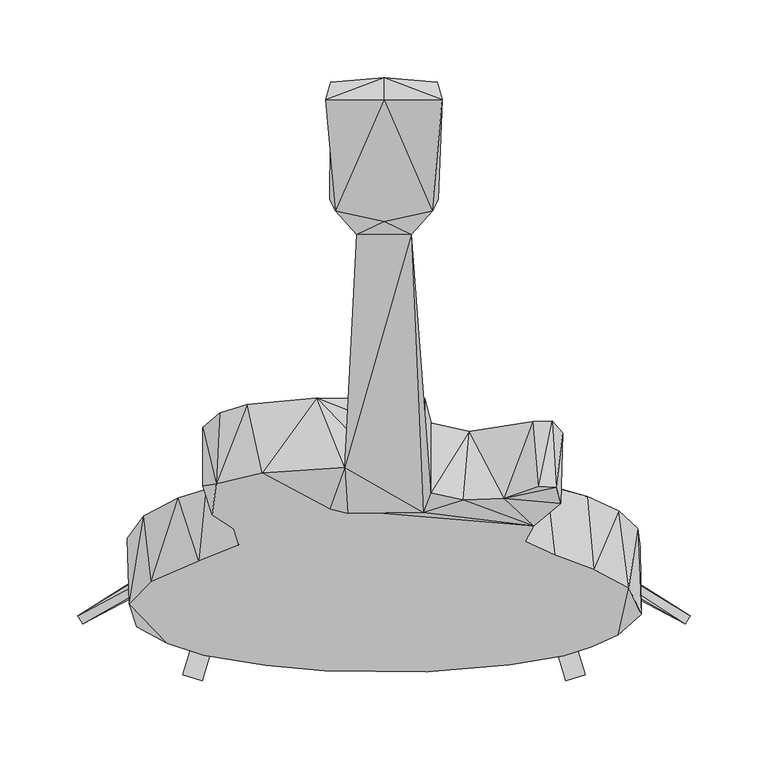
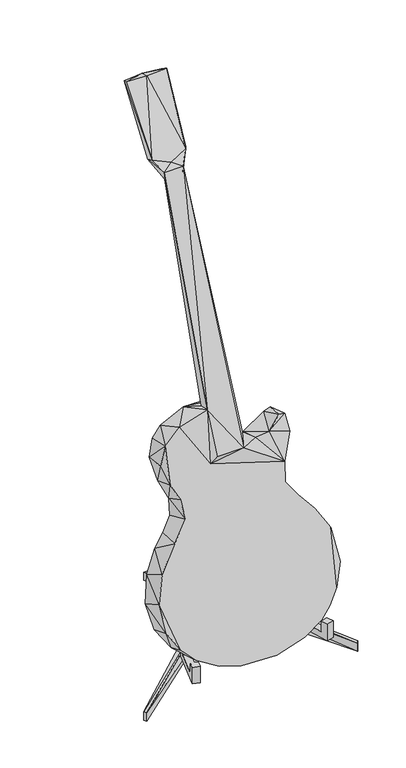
"""IFC4 building model written with IfcOpenShell, lengths in millimetres: geographic element geometry, Enscape AssetDefinition - Instrument 016 Guitar : Enscape AssetDefinition - Instrument 016 Guitar."""

from ifc_helpers import new_model, si_unit, origin, place, context, project, spatial, triangles, source, transform, mapped, element, save


def geographic_element_0d0d3237(model_context):
    return source(origin(), model_context, "Body", "Tessellation", [
        triangles([(3.0, 225.3299961, 15.7330002), (3.0, 225.3299961, -0.17), (6.01, 6.782, 119.7500035), (-3.0, 225.3299961, 15.7330002), (-3.0, 225.3299961, -0.17), (-11.7469994, 6.782, 96.5089984), (0.0, -13.5639999, 96.5089984), (-196.6419943, -110.0670007, 15.7330002), (-193.6420139, -115.2630044, 15.7330002), (-196.6419943, -110.0670007, -0.17), (-193.6420139, -115.2630044, -0.17), (196.6409951, -110.0670007, -0.17), (0.0, -5.458, 119.7500035), (193.6410147, -115.2630044, -0.17), (6.01, 5.401, 346.9699914), (0.0, -5.458, 346.9699914), (196.6409951, -110.0670007, 15.7330002), (193.6410147, -115.2630044, 15.7330002), (11.7469994, 6.782, 96.5089984), (-6.01, 5.401, 346.9699914), (-6.01, 6.782, 119.7500035), (-57.2400018, 5.401, 358.8629791), (-57.2400018, -5.458, 358.8629791), (-57.2400018, 5.401, 346.9699914), (-57.2400018, -5.458, 346.9699914), (57.2400018, -5.458, 346.9699914), (57.2400018, 5.401, 358.8629791), (0.0, -5.458, 358.8629791), (57.2400018, 5.401, 346.9699914), (57.2400018, -5.458, 358.8629791), (-129.2719967, -148.1170038, 69.7429995), (-129.2719967, -148.1170038, 101.2300038), (-125.4869988, -135.4109934, 101.2300038), (-112.8859966, -139.1649975, 80.7000069), (-125.4869988, -135.4109934, 80.7000069), (-112.8859966, -139.1649975, 101.2300038), (-98.0160012, -89.2449977, 80.7000069), (-116.6710035, -151.8699996, 69.7429995), (-116.6710035, -151.8699996, 101.2300038), (-94.2310033, -76.5390055, 69.7429995), (-94.2310033, -76.5390055, 101.2300038), (-110.6169944, -85.4910027, 80.7000069), (-106.8319965, -72.7860051, 69.7429995), (-110.6169944, -85.4910027, 101.2300038), (-106.8319965, -72.7860051, 101.2300038), (-98.0160012, -89.2449977, 101.2300038), (129.2719967, -148.1170038, 101.2300038), (125.4869988, -135.4109934, 80.7000069), (110.6169944, -85.4910027, 80.7000069), (112.8859966, -139.1649975, 101.2300038), (125.4869988, -135.4109934, 101.2300038), (112.8859966, -139.1649975, 80.7000069), (129.2719967, -148.1170038, 69.7429995), (116.6710035, -151.8699996, 69.7429995), (116.6710035, -151.8699996, 101.2300038), (106.8319965, -72.7860051, 69.7429995), (98.0160012, -89.2449977, 80.7000069), (94.2310033, -76.5390055, 69.7429995), (106.8319965, -72.7860051, 101.2300038), (94.2310033, -76.5390055, 101.2300038), (110.6169944, -85.4910027, 101.2300038), (98.0160012, -89.2449977, 101.2300038), (-164.8960032, -60.4780036, 184.2830103), (-158.9149911, -117.2320067, 158.5290045), (-155.9999983, -74.3360013, 138.7989952), (-95.0340066, -94.0299982, 74.459999), (-163.5279908, -102.4090016, 207.1270011), (-154.1869912, -46.0339997, 229.470005), (-115.8609967, -135.5209976, 102.5830008), (-119.1160033, -74.8749991, 293.6640155), (-139.0709989, -127.8779957, 126.3950012), (-149.5690046, -87.9440052, 252.0749843), (-132.5020049, -86.2119979, 103.0220002), (-75.9600028, -141.9720028, 81.0089997), (-37.9010001, -145.280004, 71.3059991), (-93.7049998, -11.3979995, 334.8540158), (-56.4419991, -99.5059993, 60.669003), (-20.8410017, -103.7580018, 55.3979994), (60.2530037, -99.7599991, 60.6699977), (80.8000008, -141.6819951, 82.4069976), (115.3739988, -135.8180089, 100.8009966), (102.7309932, -93.0190043, 79.1209972), (129.6900036, -86.317006, 102.1039966), (133.3920033, -130.0670063, 118.5870021), (164.4690126, -66.2180057, 163.1370081), (145.6100075, -81.9950042, 118.9369989), (134.5609998, -80.286006, 276.8389887), (157.2999916, -92.0929979, 239.0709997), (150.5409928, -122.3070058, 143.7149923), (165.1020045, -109.2179973, 180.4709973), (150.8290021, -42.7060006, 236.945003), (162.8259988, -54.0439986, 206.5430069), (130.575996, -33.3860004, 267.3380061), (104.5629944, -26.2880007, 299.4739988), (109.7989938, -70.9050016, 306.2129951), (82.7990067, -19.9599985, 308.0850102), (104.1060001, -0.801, 368.9159992), (89.1539967, -16.5049995, 331.4090226), (90.6559944, -62.3869987, 333.0069992), (96.0500057, -52.3680017, 364.7679966), (50.9039968, -35.6529996, 416.7380075), (113.6140044, -37.8939988, 409.415017), (25.2369997, -43.5379993, 410.8280122), (17.6300001, 134.6459965, 851.2369949), (30.0990008, -31.2240003, 432.1119965), (26.1809987, 29.5669998, 468.2309764), (30.2329997, 13.6439994, 421.027971), (14.096999, 17.2639989, 475.5110189), (26.2330009, 6.271, 474.5740122), (-16.2719991, 134.4609969, 838.2329922), (-9.9010002, 16.5870008, 475.3359933), (-43.0959977, 29.8980002, 468.9049905), (-5.1239997, 144.0700034, 837.6889847), (5.1239997, 144.0700034, 837.6889847), (27.2649987, 166.2810023, 867.0510006), (16.2719991, 134.4609969, 838.2329922), (30.9419999, 149.9460073, 871.1889748), (34.7190018, 157.3550028, 869.5709776), (-27.2649987, 166.2810023, 867.0510006), (0.0, 235.5519921, 976.4940296), (0.0, 221.1239847, 981.1130064), (34.0589994, 232.6369992, 975.6599962), (37.466999, 221.3500065, 982.5029652), (0.0, 143.2110078, 860.5489992), (-37.466999, 221.3500065, 982.5029652), (-34.0589994, 232.6369992, 975.6599962), (-34.7190018, 157.3550028, 869.5709776), (-30.9419999, 149.9460073, 871.1889748), (-17.6300001, 134.6459965, 851.2369949), (-23.1599985, -44.2869997, 409.8109958), (-34.7500001, -41.4550005, 399.3020079), (-25.0969987, -14.8980005, 484.6929803), (-22.4600003, 7.8699996, 476.9270299), (-96.4700018, -54.1330012, 358.1399855), (-87.857001, 25.5190001, 452.1509986), (-78.190994, -18.4189997, 471.0459935), (-107.694998, -25.3899996, 448.9959949), (-116.3140032, 11.0150003, 408.4070117), (-110.172999, -45.3739973, 386.5359993), (-105.5570017, 20.353, 436.1949958), (-109.448997, -3.3629999, 369.0909885), (-116.5029996, -26.5169997, 413.8120234), (54.6340017, 8.2229997, 400.7480315), (-93.386996, -64.4759972, 326.2269988), (-96.5460056, -20.108, 307.9159799), (-132.1219954, -34.5030016, 265.3079883), (-114.4659964, -28.9140009, 285.8540089), (27.3380002, -146.0209926, 69.3880021), (95.7409947, 14.7530001, 421.1870092), (107.9790014, 14.9569995, 425.1970116), (114.8519921, 7.4969999, 397.5639962), (110.5900066, -27.5970006, 437.3689794), (99.4530047, -26.8949994, 439.1759912), (77.3459965, -34.6170004, 418.8649853)], [[152, 154, 102], [152, 153, 154], [153, 152, 150], [150, 152, 151], [152, 102, 151], [150, 149, 153], [149, 150, 151], [149, 154, 153], [149, 143, 154], [143, 149, 97], [149, 151, 97], [144, 70, 148], [147, 146, 70], [147, 66, 146], [145, 147, 70], [147, 145, 66], [70, 144, 145], [143, 97, 76], [145, 144, 76], [145, 76, 66], [134, 76, 144], [76, 134, 139], [76, 139, 141], [141, 139, 142], [138, 141, 142], [140, 76, 141], [140, 141, 138], [137, 138, 142], [142, 139, 137], [138, 137, 140], [135, 76, 140], [135, 140, 137], [112, 76, 135], [112, 135, 136], [137, 139, 136], [135, 137, 136], [136, 139, 131], [131, 134, 144], [139, 134, 131], [112, 132, 133], [132, 112, 136], [136, 131, 132], [132, 131, 130], [132, 110, 133], [132, 129, 110], [129, 132, 104], [110, 129, 127], [124, 129, 104], [124, 128, 129], [127, 129, 128], [127, 128, 126], [126, 128, 125], [124, 121, 128], [121, 125, 128], [124, 104, 117], [124, 117, 121], [121, 117, 123], [120, 121, 123], [122, 120, 123], [120, 125, 121], [126, 125, 120], [119, 127, 126], [120, 119, 126], [120, 122, 115], [115, 119, 120], [123, 117, 118], [123, 118, 122], [115, 122, 118], [118, 117, 104], [116, 118, 104], [114, 118, 116], [114, 115, 118], [119, 115, 113], [115, 114, 113], [113, 110, 127], [113, 127, 119], [111, 133, 110], [111, 112, 133], [111, 110, 113], [114, 108, 113], [108, 111, 113], [114, 116, 109], [109, 116, 104], [114, 109, 108], [108, 109, 106], [111, 108, 106], [106, 76, 112], [111, 106, 112], [106, 107, 76], [143, 76, 107], [105, 109, 104], [106, 109, 105], [143, 107, 105], [106, 105, 107], [132, 103, 104], [104, 103, 105], [130, 131, 103], [132, 130, 103], [143, 101, 154], [105, 103, 101], [143, 105, 101], [151, 102, 100], [101, 103, 100], [103, 131, 100], [151, 100, 97], [154, 100, 102], [101, 100, 154], [131, 144, 100], [100, 144, 99], [97, 100, 98], [98, 100, 99], [76, 97, 96], [97, 98, 96], [98, 94, 96], [98, 99, 94], [95, 144, 148], [99, 144, 95], [94, 99, 95], [95, 148, 87], [93, 94, 95], [96, 94, 93], [96, 93, 76], [93, 95, 87], [91, 93, 87], [76, 93, 91], [91, 92, 76], [92, 91, 88], [91, 87, 88], [92, 88, 90], [85, 92, 90], [92, 85, 76], [88, 89, 90], [85, 90, 89], [87, 89, 88], [87, 84, 89], [86, 85, 89], [86, 89, 84], [85, 86, 76], [76, 86, 83], [86, 84, 81], [87, 81, 84], [86, 81, 83], [87, 80, 81], [87, 148, 80], [83, 81, 82], [76, 83, 82], [82, 81, 80], [82, 80, 79], [79, 80, 148], [82, 79, 76], [79, 148, 78], [77, 79, 78], [76, 79, 77], [76, 77, 66], [75, 78, 148], [78, 75, 77], [148, 70, 75], [77, 74, 66], [77, 75, 74], [70, 74, 75], [70, 69, 74], [69, 66, 74], [66, 69, 73], [73, 69, 71], [146, 72, 70], [72, 71, 69], [72, 69, 70], [146, 66, 68], [146, 68, 72], [68, 67, 72], [72, 67, 71], [71, 67, 64], [73, 71, 64], [65, 66, 73], [73, 64, 65], [68, 63, 67], [63, 64, 67], [68, 66, 63], [66, 65, 63], [63, 65, 64], [57, 62, 60], [60, 62, 61], [60, 61, 59], [57, 60, 58], [58, 60, 59], [58, 52, 57], [54, 50, 52], [54, 55, 50], [58, 54, 52], [56, 59, 61], [56, 54, 58], [58, 59, 56], [49, 62, 57], [49, 61, 62], [56, 61, 49], [53, 55, 54], [53, 56, 49], [56, 53, 54], [53, 47, 55], [50, 55, 47], [52, 50, 51], [50, 47, 51], [52, 51, 48], [53, 49, 48], [57, 48, 49], [57, 52, 48], [48, 47, 53], [48, 51, 47], [42, 37, 46], [42, 46, 44], [37, 41, 46], [41, 44, 46], [41, 45, 44], [43, 44, 45], [43, 42, 44], [31, 42, 43], [37, 40, 41], [40, 45, 41], [40, 43, 45], [43, 38, 31], [43, 40, 38], [31, 38, 39], [38, 36, 39], [38, 34, 36], [40, 34, 38], [40, 37, 34], [34, 33, 36], [31, 39, 32], [36, 32, 39], [36, 33, 32], [34, 35, 33], [31, 35, 42], [37, 35, 34], [37, 42, 35], [35, 32, 33], [35, 31, 32], [16, 15, 29], [16, 29, 26], [26, 27, 30], [26, 29, 27], [15, 27, 29], [27, 28, 30], [28, 26, 30], [28, 16, 26], [16, 28, 23], [16, 23, 25], [24, 25, 23], [24, 23, 22], [15, 22, 27], [27, 22, 28], [28, 22, 23], [22, 20, 24], [20, 25, 24], [20, 16, 25], [15, 20, 22], [21, 16, 20], [3, 20, 15], [3, 21, 20], [19, 3, 17], [19, 17, 12], [17, 14, 12], [17, 18, 14], [18, 17, 3], [21, 13, 16], [13, 15, 16], [13, 3, 15], [18, 3, 13], [14, 18, 13], [8, 13, 21], [8, 9, 13], [7, 13, 9], [12, 7, 19], [12, 14, 7], [14, 13, 7], [7, 9, 11], [9, 10, 11], [9, 8, 10], [10, 8, 21], [6, 19, 7], [11, 6, 7], [11, 10, 6], [10, 21, 6], [5, 19, 6], [6, 4, 5], [6, 21, 4], [1, 21, 3], [1, 4, 21], [4, 2, 5], [4, 1, 2], [5, 2, 19], [2, 3, 19], [2, 1, 3]]),
    ])


if __name__ == "__main__":
    model = new_model("IFC4")
    model_context = context("Model", 3, world=origin())
    ifc_project = project(units=[si_unit("LENGTHUNIT", "METRE", prefix="MILLI")], contexts=[model_context])
    site = spatial("IfcSite", under=ifc_project)
    building = spatial("IfcBuilding", under=site)
    placement = place(None, origin())
    geographic_element_shape = geographic_element_0d0d3237(model_context)
    element("IfcGeographicElement", 1, ObjectType="Enscape AssetDefinition - Instrument 016 Guitar : Enscape AssetDefinition - Instrument 016 Guitar", at=placement, inside=building, context=model_context, shape_type="MappedRepresentation", body=[
        mapped(geographic_element_shape, transform((0.0, 0.0, 0.0), x_axis=(1.0, 0.0, 0.0), y_axis=(0.0, 1.0, 0.0), z_axis=(0.0, 0.0, 1.0))),
    ])
    save(model, "model.ifc")
